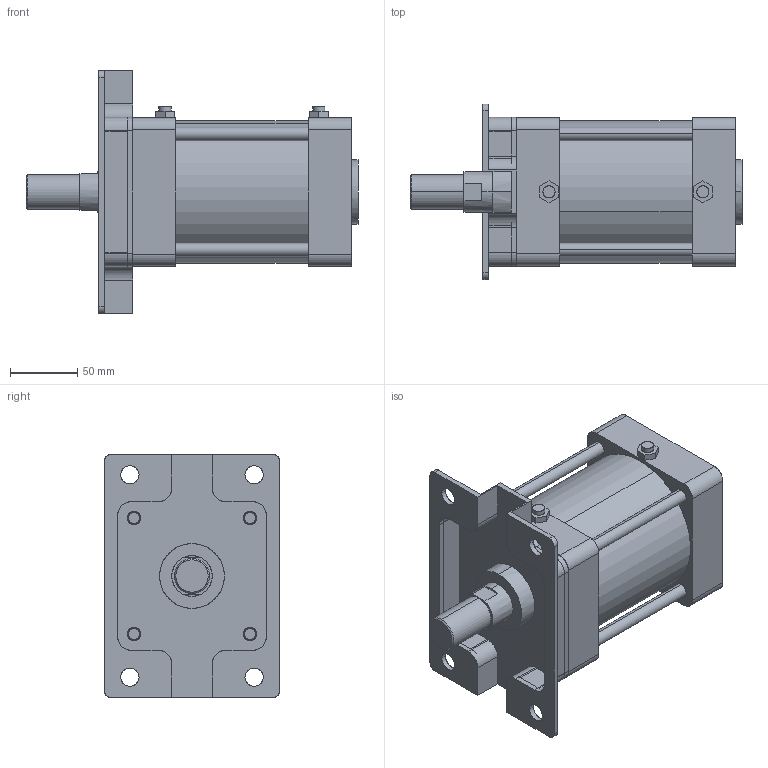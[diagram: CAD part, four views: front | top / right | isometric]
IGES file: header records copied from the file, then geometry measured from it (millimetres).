
Start section: SolidWorks IGES file using analytic representation for surfaces
Global section: file name: C:\Users\Toshiba\Desktop\KG2-100-50-A.IGS; native system: SolidWorks 2014; preprocessor: SolidWorks 2014; author: Toshiba; date: 160401.162155; units: millimetre
Bounding box: 246 x 130 x 180 mm (x, y, z)
Surface area: 271789.1 mm2 (no closed solid volume)
Topology: 0 solids, 0 shells, 373 faces, 5989 edges, 5985 vertices
Faces by surface type: bspline 194, revolution 179
